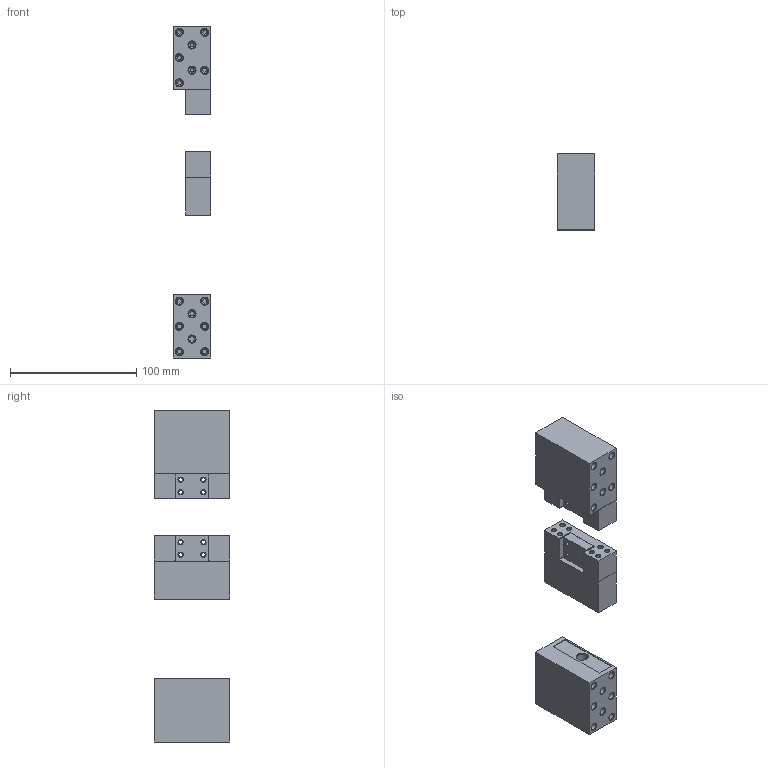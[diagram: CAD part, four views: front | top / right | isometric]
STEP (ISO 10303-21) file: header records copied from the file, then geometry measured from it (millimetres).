
FILE_DESCRIPTION(/* description */ (''),/* implementation_level */ '2;1');
FILE_NAME(/* name */ 'G:/Dropbox/CBA/projects/machines/endeffector/mudstick/cad/dex-fixtures-typefive v8.step',/* time_stamp */ '2019-10-03T21:52:37-04:00',/* author */ (''),/* organization */ (''),/* preprocessor_version */ 'ST-DEVELOPER v18',/* originating_system */ 'Autodesk Translation Framework v8.6.0.1094',/* authorisation */ '');
FILE_SCHEMA (('AUTOMOTIVE_DESIGN { 1 0 10303 214 3 1 1 }'));
Length unit declared in the file: millimetre
Products named in the file (1): dex-fixtures-typefive
Bounding box: 30 x 60 x 262.5 mm (x, y, z)
Volume: 237223.5 mm3; surface area: 61814.6 mm2
Topology: 7 solids, 7 shells, 479 faces, 955 edges, 584 vertices
Faces by surface type: plane 168, cone 160, cylinder 151
Full cylindrical faces by diameter (mm): 3.15 x58, 3.5 x16, 5.4 x50, 8.5 x2, 9.5 x1, 13.5 x2
Entity records: 12532 total; most frequent: DIRECTION 2379, CARTESIAN_POINT 2019, ORIENTED_EDGE 1910, EDGE_CURVE 955, AXIS2_PLACEMENT_3D 944, EDGE_LOOP 641, VERTEX_POINT 584, LINE 491
